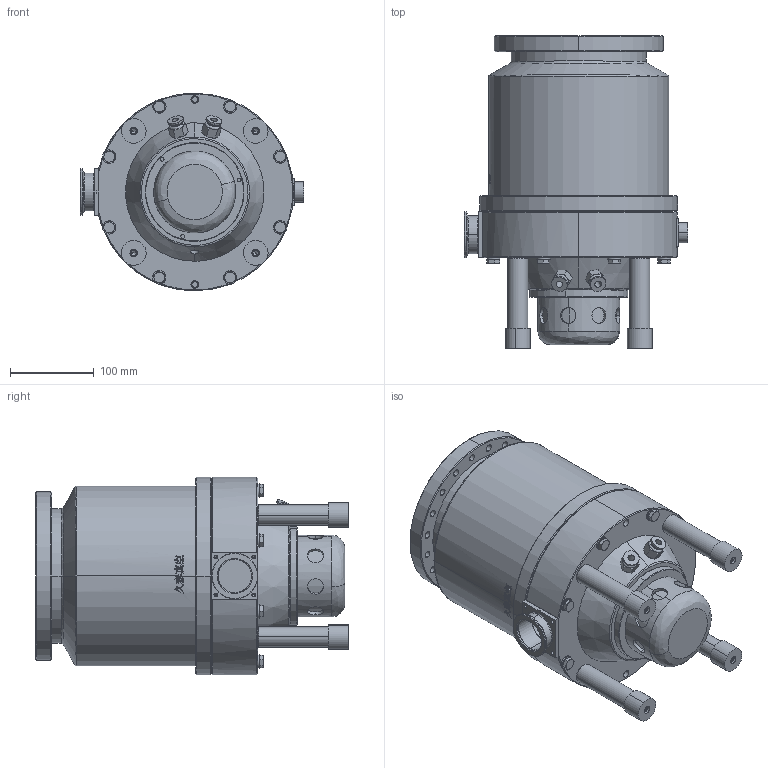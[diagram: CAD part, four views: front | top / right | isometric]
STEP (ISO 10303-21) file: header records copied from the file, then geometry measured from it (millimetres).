
FILE_DESCRIPTION (( 'STEP AP203' ), '1' );
FILE_NAME ('cf-600D-00W.STEP', '2025-03-29T02:27:30', ( 'User' ), ( 'China' ), 'SwSTEP 2.0', 'SolidWorks 2016', '' );
FILE_SCHEMA (( 'CONFIG_CONTROL_DESIGN' ));
Length unit declared in the file: millimetre
Products named in the file (16): cf-600D-00W; plain washers--product grade c gb_GB_FASTENER_WASHER_SMWC 8_1; hexagon head bolts--product grade c gb_GB_FASTENER_BOLT_HHBC M8X65-N_1; hexagon socket head cap screws gb_GB_FASTENER_SCREWS_HSHCS M6X20-N_1; SJJTB-07-00H_1; ﾂﾝﾖ8｡ﾁ25_2; SJJTB-600-01W_2; 阨郲_2; SJJTB-600-02_2; JTFB600D-14-01-01｣ﾗ_1; SJJTB-600-15_2; SJJTB-600D-14-01-00｣ﾗ_1; SJJTB-07-01A_2; 600蝶杶_2; SJJTB-600D-14-00W_1; 萇埭諉芛_2
Assembly tree (46 placements, depth 4):
  cf-600D-00W
    SJJTB-07-00H_1
      SJJTB-07-01A_2
    SJJTB-600-01W_2
    SJJTB-600-02_2
    SJJTB-600-15_2  x4
    600蝶杶_2  x4
    萇埭諉芛_2
    plain washers--product grade c gb_GB_FASTENER_WASHER_SMWC 8_1  x8
    hexagon head bolts--product grade c gb_GB_FASTENER_BOLT_HHBC M8X65-N_1  x8
    hexagon socket head cap screws gb_GB_FASTENER_SCREWS_HSHCS M6X20-N_1  x8
    ﾂﾝﾖ8｡ﾁ25_2  x4
    阨郲_2  x2
    SJJTB-600D-14-00W_1
      SJJTB-600D-14-01-00｣ﾗ_1
        JTFB600D-14-01-01｣ﾗ_1
Bounding box: 266.98 x 373.25 x 236 mm (x, y, z)
Volume: 11324491.4 mm3; surface area: 593017.9 mm2
Topology: 43 solids, 44 shells, 1259 faces, 2958 edges, 1843 vertices
Faces by surface type: plane 406, cylinder 397, cone 269, bspline 187
Entity records: 54776 total; most frequent: CARTESIAN_POINT 35951, ORIENTED_EDGE 3582, DIRECTION 2960, EDGE_CURVE 1791, AXIS2_PLACEMENT_3D 1220, VERTEX_POINT 1159, EDGE_LOOP 910, ADVANCED_FACE 731
